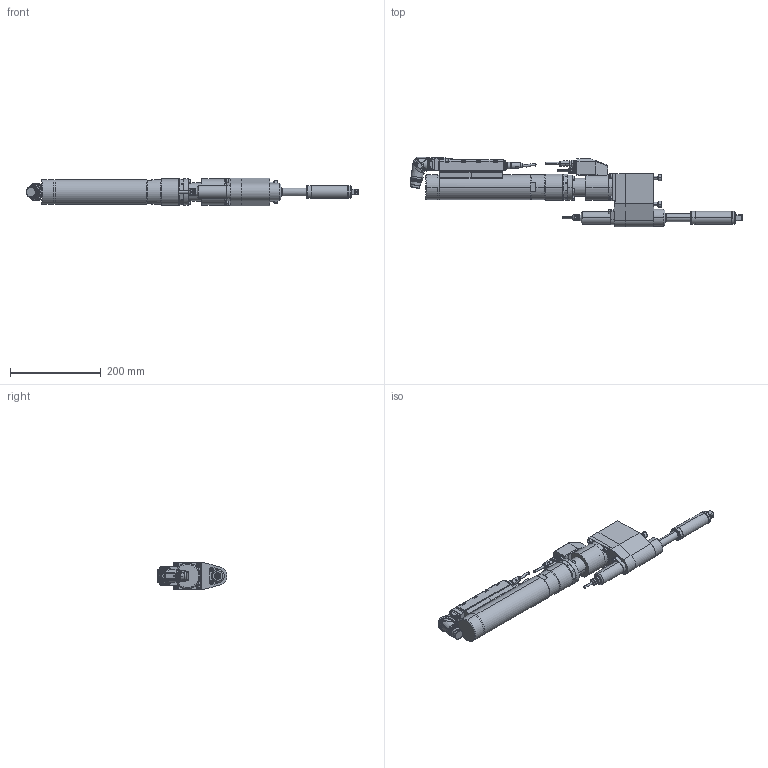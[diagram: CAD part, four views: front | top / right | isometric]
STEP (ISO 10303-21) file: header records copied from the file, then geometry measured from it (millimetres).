
FILE_DESCRIPTION (( 'STEP AP214' ), '1' );
FILE_NAME ('70082574_ESX206DRXWX140AODX250-140.STEP', '2026-04-13T11:15:07', ( '' ), ( '' ), 'SwSTEP 2.0', 'SolidWorks 2020', '' );
FILE_SCHEMA (( 'AUTOMOTIVE_DESIGN' ));
Length unit declared in the file: millimetre
Products named in the file (1): 70082574_ESX206DRXWX140AODX250-140
Bounding box: 731.86 x 153.46 x 60 mm (x, y, z)
Volume: 2030508.4 mm3; surface area: 239227.7 mm2
Topology: 13 solids, 14 shells, 3401 faces, 8730 edges, 5548 vertices
Faces by surface type: plane 1403, cylinder 1009, cone 526, bspline 310, torus 147, sphere 6
Entity records: 153838 total; most frequent: CARTESIAN_POINT 36778, ORIENTED_EDGE 17308, DIRECTION 15689, EDGE_CURVE 8654, AXIS2_PLACEMENT_3D 5912, VERTEX_POINT 5546, VECTOR 3865, LINE 3865
